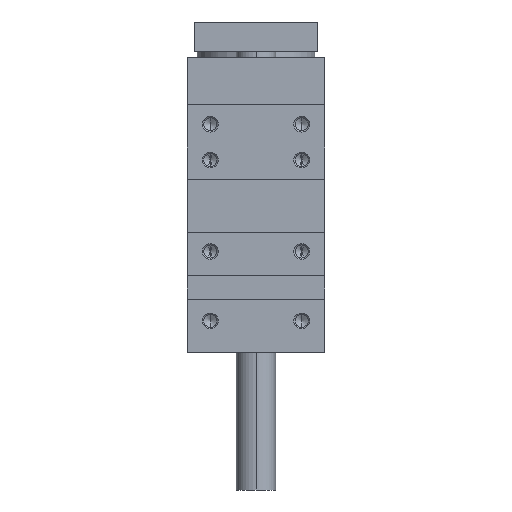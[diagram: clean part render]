
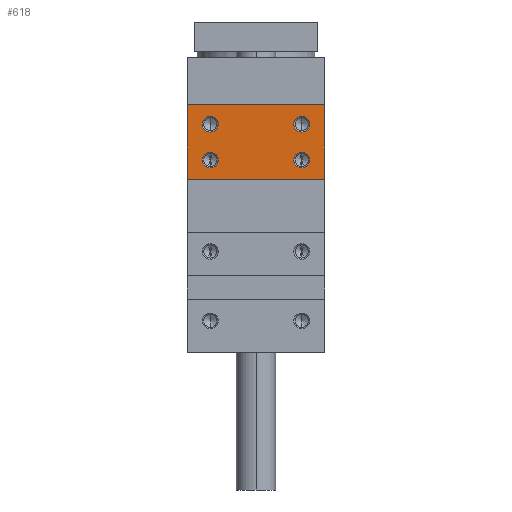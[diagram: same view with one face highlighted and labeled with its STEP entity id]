
A CAD part, left-side view. The second image highlights one B-rep face of the part: STEP entity #618.
In plain terms, the highlighted planar face has unit normal (-1, 0, 0).
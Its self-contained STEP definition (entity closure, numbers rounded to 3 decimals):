
#113 = FACE_BOUND ( 'NONE', #7295, .T. ) ;
#368 = VECTOR ( 'NONE', #10505, 1000. ) ;
#374 = ORIENTED_EDGE ( 'NONE', *, *, #9650, .T. ) ;
#458 = CARTESIAN_POINT ( 'NONE',  ( -68.5, -35., 9. ) ) ;
#476 = CARTESIAN_POINT ( 'NONE',  ( -68.5, -23.25, 22.8 ) ) ;
#517 = VERTEX_POINT ( 'NONE', #613 ) ;
#568 = ORIENTED_EDGE ( 'NONE', *, *, #10812, .T. ) ;
#613 = CARTESIAN_POINT ( 'NONE',  ( -68.5, 35., 47. ) ) ;
#618 = ADVANCED_FACE ( 'NONE', ( #6922, #6099, #7626, #113, #9322 ), #8617, .F. ) ;
#645 = DIRECTION ( 'NONE',  ( 0., -1., 0. ) ) ;
#695 = CARTESIAN_POINT ( 'NONE',  ( -68.5, -23.25, 37. ) ) ;
#908 = DIRECTION ( 'NONE',  ( 0., 0., -1. ) ) ;
#965 = EDGE_CURVE ( 'NONE', #9156, #2230, #7354, .T. ) ;
#1094 = CARTESIAN_POINT ( 'NONE',  ( -68.5, 35., -79. ) ) ;
#1207 = DIRECTION ( 'NONE',  ( 0., 0., -1. ) ) ;
#1412 = EDGE_CURVE ( 'NONE', #2608, #8868, #4522, .T. ) ;
#1464 = CARTESIAN_POINT ( 'NONE',  ( -68.5, 35., 9. ) ) ;
#1483 = CARTESIAN_POINT ( 'NONE',  ( -68.5, 23.25, 37. ) ) ;
#1514 = EDGE_CURVE ( 'NONE', #6395, #4891, #9480, .T. ) ;
#1538 = DIRECTION ( 'NONE',  ( 0., 0., -1. ) ) ;
#1931 = DIRECTION ( 'NONE',  ( 0., -1., 0. ) ) ;
#2145 = CIRCLE ( 'NONE', #3021, 4. ) ;
#2167 = DIRECTION ( 'NONE',  ( 0., 0., 1. ) ) ;
#2230 = VERTEX_POINT ( 'NONE', #8613 ) ;
#2255 = AXIS2_PLACEMENT_3D ( 'NONE', #2793, #6980, #1207 ) ;
#2479 = EDGE_LOOP ( 'NONE', ( #5707, #9745 ) ) ;
#2608 = VERTEX_POINT ( 'NONE', #458 ) ;
#2644 = DIRECTION ( 'NONE',  ( 1., 0., 0. ) ) ;
#2793 = CARTESIAN_POINT ( 'NONE',  ( -68.5, 23.25, 18.8 ) ) ;
#3021 = AXIS2_PLACEMENT_3D ( 'NONE', #6780, #3367, #10077 ) ;
#3144 = DIRECTION ( 'NONE',  ( 1., 0., 0. ) ) ;
#3212 = CARTESIAN_POINT ( 'NONE',  ( -68.5, 35., -79. ) ) ;
#3367 = DIRECTION ( 'NONE',  ( 1., 0., 0. ) ) ;
#3498 = CARTESIAN_POINT ( 'NONE',  ( -68.5, -23.25, 41. ) ) ;
#3525 = AXIS2_PLACEMENT_3D ( 'NONE', #8434, #9363, #908 ) ;
#3643 = CARTESIAN_POINT ( 'NONE',  ( -68.5, -35., -79. ) ) ;
#3668 = ORIENTED_EDGE ( 'NONE', *, *, #10024, .F. ) ;
#3744 = EDGE_CURVE ( 'NONE', #10459, #9856, #7201, .T. ) ;
#3887 = ORIENTED_EDGE ( 'NONE', *, *, #6603, .T. ) ;
#4041 = DIRECTION ( 'NONE',  ( 0., 0., -1. ) ) ;
#4140 = EDGE_CURVE ( 'NONE', #4891, #6395, #7583, .T. ) ;
#4422 = DIRECTION ( 'NONE',  ( 1., 0., 0. ) ) ;
#4522 = LINE ( 'NONE', #3643, #368 ) ;
#4543 = AXIS2_PLACEMENT_3D ( 'NONE', #1483, #8236, #1538 ) ;
#4643 = DIRECTION ( 'NONE',  ( 0., 0., -1. ) ) ;
#4891 = VERTEX_POINT ( 'NONE', #10545 ) ;
#5053 = ORIENTED_EDGE ( 'NONE', *, *, #3744, .T. ) ;
#5093 = CARTESIAN_POINT ( 'NONE',  ( -68.5, -23.25, 18.8 ) ) ;
#5182 = CARTESIAN_POINT ( 'NONE',  ( -68.5, -23.25, 18.8 ) ) ;
#5458 = EDGE_LOOP ( 'NONE', ( #6527, #3668, #6230, #374 ) ) ;
#5534 = CIRCLE ( 'NONE', #7986, 4. ) ;
#5670 = CARTESIAN_POINT ( 'NONE',  ( -68.5, -23.25, 37. ) ) ;
#5707 = ORIENTED_EDGE ( 'NONE', *, *, #1514, .T. ) ;
#5775 = CARTESIAN_POINT ( 'NONE',  ( -68.5, 23.25, 22.8 ) ) ;
#6013 = CARTESIAN_POINT ( 'NONE',  ( -68.5, 23.25, 33. ) ) ;
#6061 = DIRECTION ( 'NONE',  ( 0., 0., -1. ) ) ;
#6099 = FACE_BOUND ( 'NONE', #9428, .T. ) ;
#6194 = CARTESIAN_POINT ( 'NONE',  ( -68.5, -35., 47. ) ) ;
#6230 = ORIENTED_EDGE ( 'NONE', *, *, #7870, .F. ) ;
#6368 = VECTOR ( 'NONE', #1931, 1000. ) ;
#6395 = VERTEX_POINT ( 'NONE', #3498 ) ;
#6410 = VERTEX_POINT ( 'NONE', #476 ) ;
#6506 = VERTEX_POINT ( 'NONE', #1464 ) ;
#6527 = ORIENTED_EDGE ( 'NONE', *, *, #1412, .T. ) ;
#6603 = EDGE_CURVE ( 'NONE', #10012, #6410, #9404, .T. ) ;
#6627 = DIRECTION ( 'NONE',  ( 1., 0., 0. ) ) ;
#6780 = CARTESIAN_POINT ( 'NONE',  ( -68.5, 23.25, 37. ) ) ;
#6922 = FACE_OUTER_BOUND ( 'NONE', #5458, .T. ) ;
#6948 = VECTOR ( 'NONE', #2167, 1000. ) ;
#6970 = ORIENTED_EDGE ( 'NONE', *, *, #7642, .T. ) ;
#6980 = DIRECTION ( 'NONE',  ( 1., 0., 0. ) ) ;
#7033 = AXIS2_PLACEMENT_3D ( 'NONE', #5670, #3144, #9024 ) ;
#7201 = CIRCLE ( 'NONE', #3525, 4. ) ;
#7256 = ORIENTED_EDGE ( 'NONE', *, *, #965, .T. ) ;
#7295 = EDGE_LOOP ( 'NONE', ( #10258, #7256 ) ) ;
#7354 = CIRCLE ( 'NONE', #4543, 4. ) ;
#7447 = LINE ( 'NONE', #3212, #6948 ) ;
#7583 = CIRCLE ( 'NONE', #7937, 4. ) ;
#7626 = FACE_BOUND ( 'NONE', #7728, .T. ) ;
#7642 = EDGE_CURVE ( 'NONE', #6410, #10012, #5534, .T. ) ;
#7672 = AXIS2_PLACEMENT_3D ( 'NONE', #1094, #7798, #10320 ) ;
#7728 = EDGE_LOOP ( 'NONE', ( #6970, #3887 ) ) ;
#7798 = DIRECTION ( 'NONE',  ( 1., 0., 0. ) ) ;
#7870 = EDGE_CURVE ( 'NONE', #6506, #517, #7447, .T. ) ;
#7937 = AXIS2_PLACEMENT_3D ( 'NONE', #695, #6627, #4041 ) ;
#7986 = AXIS2_PLACEMENT_3D ( 'NONE', #5093, #4422, #4643 ) ;
#8160 = LINE ( 'NONE', #10634, #9273 ) ;
#8236 = DIRECTION ( 'NONE',  ( 1., 0., 0. ) ) ;
#8267 = CARTESIAN_POINT ( 'NONE',  ( -68.5, -23.25, 14.8 ) ) ;
#8434 = CARTESIAN_POINT ( 'NONE',  ( -68.5, 23.25, 18.8 ) ) ;
#8613 = CARTESIAN_POINT ( 'NONE',  ( -68.5, 23.25, 41. ) ) ;
#8617 = PLANE ( 'NONE',  #7672 ) ;
#8868 = VERTEX_POINT ( 'NONE', #6194 ) ;
#9024 = DIRECTION ( 'NONE',  ( 0., 0., -1. ) ) ;
#9156 = VERTEX_POINT ( 'NONE', #6013 ) ;
#9203 = EDGE_CURVE ( 'NONE', #2230, #9156, #2145, .T. ) ;
#9273 = VECTOR ( 'NONE', #645, 1000. ) ;
#9322 = FACE_BOUND ( 'NONE', #2479, .T. ) ;
#9363 = DIRECTION ( 'NONE',  ( 1., 0., 0. ) ) ;
#9404 = CIRCLE ( 'NONE', #9413, 4. ) ;
#9413 = AXIS2_PLACEMENT_3D ( 'NONE', #5182, #2644, #6061 ) ;
#9428 = EDGE_LOOP ( 'NONE', ( #568, #5053 ) ) ;
#9480 = CIRCLE ( 'NONE', #7033, 4. ) ;
#9564 = CARTESIAN_POINT ( 'NONE',  ( -68.5, 70., 9. ) ) ;
#9617 = CARTESIAN_POINT ( 'NONE',  ( -68.5, 23.25, 14.8 ) ) ;
#9650 = EDGE_CURVE ( 'NONE', #6506, #2608, #10225, .T. ) ;
#9745 = ORIENTED_EDGE ( 'NONE', *, *, #4140, .T. ) ;
#9856 = VERTEX_POINT ( 'NONE', #5775 ) ;
#10012 = VERTEX_POINT ( 'NONE', #8267 ) ;
#10024 = EDGE_CURVE ( 'NONE', #517, #8868, #8160, .T. ) ;
#10077 = DIRECTION ( 'NONE',  ( 0., 0., -1. ) ) ;
#10148 = CIRCLE ( 'NONE', #2255, 4. ) ;
#10225 = LINE ( 'NONE', #9564, #6368 ) ;
#10258 = ORIENTED_EDGE ( 'NONE', *, *, #9203, .T. ) ;
#10320 = DIRECTION ( 'NONE',  ( 0., 1., 0. ) ) ;
#10459 = VERTEX_POINT ( 'NONE', #9617 ) ;
#10505 = DIRECTION ( 'NONE',  ( 0., 0., 1. ) ) ;
#10545 = CARTESIAN_POINT ( 'NONE',  ( -68.5, -23.25, 33. ) ) ;
#10634 = CARTESIAN_POINT ( 'NONE',  ( -68.5, 70., 47. ) ) ;
#10812 = EDGE_CURVE ( 'NONE', #9856, #10459, #10148, .T. ) ;
